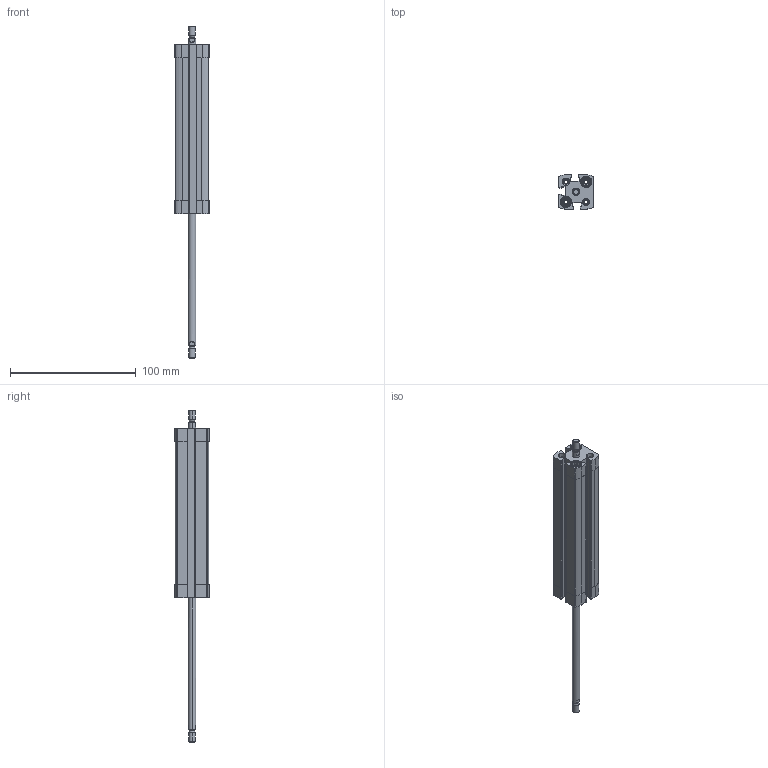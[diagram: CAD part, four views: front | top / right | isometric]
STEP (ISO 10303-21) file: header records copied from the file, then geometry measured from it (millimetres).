
FILE_DESCRIPTION (( 'STEP AP203' ), '1' );
FILE_NAME ('CCN12-100-P.STEP', '2020-06-22T18:35:56', ( '' ), ( '' ), 'SwSTEP 2.0', 'SolidWorks 2019', '' );
FILE_SCHEMA (( 'CONFIG_CONTROL_DESIGN' ));
Length unit declared in the file: millimetre
Products named in the file (1): CCN12-100-P
Bounding box: 27.5 x 27.5 x 264.5 mm (x, y, z)
Volume: 71493.8 mm3; surface area: 37932.6 mm2
Topology: 2 solids, 2 shells, 384 faces, 976 edges, 632 vertices
Faces by surface type: plane 192, cylinder 140, cone 44, torus 8
Entity records: 11783 total; most frequent: CARTESIAN_POINT 2293, DIRECTION 1986, ORIENTED_EDGE 1952, EDGE_CURVE 976, AXIS2_PLACEMENT_3D 725, VERTEX_POINT 632, VECTOR 536, LINE 536
